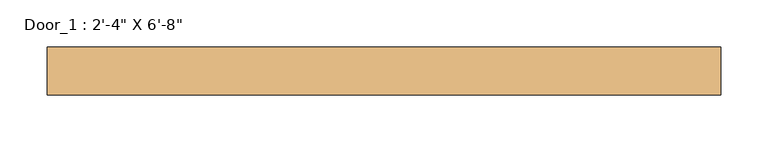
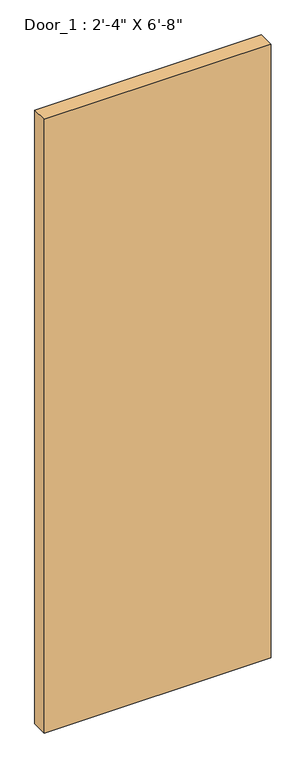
"""IFC4 building model written with IfcOpenShell, lengths in millimetres: door geometry."""

import ifcopenshell
import ifcopenshell.guid

model = None  # the IFC model being written
_history = None  # IfcOwnerHistory: only IFC2X3 demands one
_inside = {}  # id of a spatial element -> (the spatial element, [elements in it])
_under = {}  # id of a project, library or spatial element -> (it, [spatial elements below it])
_declared = {}  # id of a project -> (the project, [libraries it declares])
_typed = {}  # id of a type object -> (the type object, [elements of that type])
_made_of = {}  # id of a material, layer set ... -> (it, [elements and type objects made of it])


def new_model(schema):
    """Start an empty IFC model of exactly this schema.

    Asked for "IFC4X3", IfcOpenShell would pick the latest addendum, in which some entities
    have other attributes; the version numbers below select the first issue.
    IFC2X3 requires an IfcOwnerHistory on every rooted entity: one is made here for all.
    """
    global model, _history
    if schema == "IFC4X3":
        model = ifcopenshell.file(schema_version=(4, 3, 0, 0))
    else:
        model = ifcopenshell.file(schema=schema)
    _inside.clear()
    _under.clear()
    _declared.clear()
    _typed.clear()
    _made_of.clear()
    _history = None
    if model.schema == "IFC2X3":
        org = make("IfcOrganization", Name="unknown")
        user = make(
            "IfcPersonAndOrganization",
            ThePerson=make("IfcPerson", FamilyName="unknown"),
            TheOrganization=org,
        )
        app = make(
            "IfcApplication",
            ApplicationDeveloper=org,
            Version="unknown",
            ApplicationFullName="unknown",
            ApplicationIdentifier="unknown",
        )
        _history = make(
            "IfcOwnerHistory",
            OwningUser=user,
            OwningApplication=app,
            ChangeAction="ADDED",
            CreationDate=0,
        )
    return model


def make(cls, **values):
    """One entity of the class cls with the attributes given. An attribute that is None is left unset."""
    return model.create_entity(
        cls, **{name: value for name, value in values.items() if value is not None}
    )


def rooted(cls, **values):
    """An entity with a GlobalId (a new one), such as an element, a storey or a relation."""
    return make(cls, GlobalId=ifcopenshell.guid.new(), OwnerHistory=_history, **values)


def si_unit(unit_type, name, prefix=None):
    """IfcSIUnit, for example si_unit("LENGTHUNIT", "METRE", prefix="MILLI")."""
    return make("IfcSIUnit", UnitType=unit_type, Prefix=prefix, Name=name)


def assignment(units):
    """IfcUnitAssignment: the units of a project."""
    return None if units is None else make("IfcUnitAssignment", Units=units)


def point(xyz):
    """IfcCartesianPoint."""
    return None if xyz is None else make("IfcCartesianPoint", Coordinates=xyz)


def direction(xyz):
    """IfcDirection."""
    return None if xyz is None else make("IfcDirection", DirectionRatios=xyz)


def frame(location, z_axis=None, x_axis=None):
    """IfcAxis2Placement3D, a coordinate frame: its origin and axes. An axis left out is left unset."""
    return make(
        "IfcAxis2Placement3D",
        Location=point(location),
        Axis=direction(z_axis),
        RefDirection=direction(x_axis),
    )


def origin():
    """The frame at (0, 0, 0) with its axes left unset."""
    return frame((0.0, 0.0, 0.0))


def origin_with_axes():
    """The frame at (0, 0, 0) with the z axis (0, 0, 1) and the x axis (1, 0, 0) written out."""
    return frame((0.0, 0.0, 0.0), z_axis=(0.0, 0.0, 1.0), x_axis=(1.0, 0.0, 0.0))


def place(relative_to, where):
    """IfcLocalPlacement: puts the frame where relative to a parent placement (None: the world)."""
    return make(
        "IfcLocalPlacement", PlacementRelTo=relative_to, RelativePlacement=where
    )


def context(
    kind, dimensions, precision=None, world=None, true_north=None, identifier=None
):
    """IfcGeometricRepresentationContext, for example the 3D "Model" context."""
    return make(
        "IfcGeometricRepresentationContext",
        ContextIdentifier=identifier,
        ContextType=kind,
        CoordinateSpaceDimension=dimensions,
        Precision=precision,
        WorldCoordinateSystem=world,
        TrueNorth=true_north,
    )


def project(units=None, contexts=None):
    """IfcProject with its units and contexts."""
    return rooted(
        "IfcProject",
        Name="project",
        RepresentationContexts=contexts,
        UnitsInContext=assignment(units),
    )


def spatial(cls, under=None, at=None, **own):
    """A site, building, storey or space (cls), placed at a placement, below another one or the project."""
    s = rooted(cls, ObjectPlacement=at, **own)
    if under is not None:
        _under.setdefault(under.id(), (under, []))[1].append(s)
    return s


def polyline(points):
    """IfcPolyline through the points."""
    return make("IfcPolyline", Points=[point(p) for p in points])


def outline(outer, holes=None, kind="AREA"):
    """IfcArbitraryClosedProfileDef: a profile drawn as a closed curve; with holes, ...WithVoids."""
    if holes is None:
        return make("IfcArbitraryClosedProfileDef", ProfileType=kind, OuterCurve=outer)
    return make(
        "IfcArbitraryProfileDefWithVoids",
        ProfileType=kind,
        OuterCurve=outer,
        InnerCurves=holes,
    )


def extrude(swept, where, along, depth):
    """IfcExtrudedAreaSolid: the profile swept, set in the frame where, extruded along a direction by depth."""
    return make(
        "IfcExtrudedAreaSolid",
        SweptArea=swept,
        Position=where,
        ExtrudedDirection=direction(along),
        Depth=depth,
    )


def shape(context_of_items, identifier, shape_type, items):
    """IfcShapeRepresentation: the items that make up one representation, for example the "Body"."""
    return make(
        "IfcShapeRepresentation",
        ContextOfItems=context_of_items,
        RepresentationIdentifier=identifier,
        RepresentationType=shape_type,
        Items=items,
    )


def source(mapping_origin, context_of_items, identifier, shape_type, items):
    """IfcRepresentationMap: a shape defined once, which mapped items show again and again."""
    return make(
        "IfcRepresentationMap",
        MappingOrigin=mapping_origin,
        MappedRepresentation=shape(context_of_items, identifier, shape_type, items),
    )


def transform(
    local_origin,
    x_axis=None,
    y_axis=None,
    z_axis=None,
    scale=None,
    scale2=None,
    scale3=None,
    uniform=True,
):
    """IfcCartesianTransformationOperator3D, or its non-uniform kind. x_axis, y_axis, z_axis: its Axis1, 2, 3."""
    if uniform:
        return make(
            "IfcCartesianTransformationOperator3D",
            Axis1=direction(x_axis),
            Axis2=direction(y_axis),
            LocalOrigin=point(local_origin),
            Scale=scale,
            Axis3=direction(z_axis),
        )
    return make(
        "IfcCartesianTransformationOperator3DnonUniform",
        Axis1=direction(x_axis),
        Axis2=direction(y_axis),
        LocalOrigin=point(local_origin),
        Scale=scale,
        Axis3=direction(z_axis),
        Scale2=scale2,
        Scale3=scale3,
    )


def mapped(mapping_source, mapping_target):
    """IfcMappedItem: shows the shape of a source again, moved by a transform."""
    return make(
        "IfcMappedItem", MappingSource=mapping_source, MappingTarget=mapping_target
    )


def made_of(thing, what):
    """Note that an element or type object is made of a material, layer set ...; save() writes the relation."""
    if what is not None:
        _made_of.setdefault(what.id(), (what, []))[1].append(thing)
    return thing


def element(
    cls,
    number,
    at=None,
    inside=None,
    cuts=None,
    type_object=None,
    material=None,
    context=None,
    identifier="Body",
    shape_type=None,
    held_by="IfcProductDefinitionShape",
    body=None,
    shapes=None,
    **own,
):
    """One element of the class cls, such as IfcWall. Its Tag is "e" and its number.

    at: its placement. inside: the storey or other place that contains it. cuts: it is an
    opening in that element (IfcRelVoidsElement). A single representation is given by context,
    identifier, shape_type and body (its items); several are given by shapes. held_by: the class
    of the entity that holds the representations. save() writes the other relations.
    """
    e = rooted(cls, Tag="e%d" % number, ObjectPlacement=at, **own)
    if body is not None:
        shapes = [shape(context, identifier, shape_type, body)]
    if shapes is not None:
        e.Representation = make(held_by, Representations=shapes)
    if inside is not None:
        _inside.setdefault(inside.id(), (inside, []))[1].append(e)
    if cuts is not None:
        rooted(
            "IfcRelVoidsElement", RelatingBuildingElement=cuts, RelatedOpeningElement=e
        )
    if type_object is not None:
        _typed.setdefault(type_object.id(), (type_object, []))[1].append(e)
    return made_of(e, material)


def aggregate(whole, parts):
    """IfcRelAggregates: a whole, such as a stair, and the parts it consists of."""
    return rooted("IfcRelAggregates", RelatingObject=whole, RelatedObjects=parts)


def save(model, path):
    """Write the relations noted so far, then the file.

    IfcRelAggregates (storeys below a building ...), IfcRelContainedInSpatialStructure (elements
    in a storey), IfcRelDefinesByType, IfcRelAssociatesMaterial and IfcRelDeclares: one each for
    every whole, place, type object, material and project.
    """
    for whole, parts in _under.values():
        aggregate(whole, parts)
    for where, things in _inside.values():
        rooted(
            "IfcRelContainedInSpatialStructure",
            RelatedElements=things,
            RelatingStructure=where,
        )
    for kind, things in _typed.values():
        rooted("IfcRelDefinesByType", RelatedObjects=things, RelatingType=kind)
    for what, things in _made_of.values():
        rooted("IfcRelAssociatesMaterial", RelatedObjects=things, RelatingMaterial=what)
    for by, libraries in _declared.values():
        rooted("IfcRelDeclares", RelatingContext=by, RelatedDefinitions=libraries)
    model.write(path)


def door_f3367864(model_context):
    return source(origin(), model_context, "Body", "SweptSolid", [
        extrude(outline(polyline([(355.6, -52.5893842), (355.6, -103.3893842), (-355.6, -103.3893842), (-355.6, -52.5893842), (355.6, -52.5893842)])), origin_with_axes(), (0.0, 0.0, 1.0), 2032.0),
    ])


if __name__ == "__main__":
    model = new_model("IFC4")
    model_context = context("Model", 3, world=origin())
    ifc_project = project(units=[si_unit("LENGTHUNIT", "METRE", prefix="MILLI")], contexts=[model_context])
    site = spatial("IfcSite", under=ifc_project)
    building = spatial("IfcBuilding", under=site)
    placement = place(None, origin())
    door_shape = door_f3367864(model_context)
    element("IfcDoor", 1, ObjectType="Door_1 : 2'-4\" X 6'-8\"", at=placement, inside=building, context=model_context, shape_type="MappedRepresentation", body=[
        mapped(door_shape, transform((0.0, 0.0, 0.0), x_axis=(1.0, 0.0, 0.0), y_axis=(0.0, 1.0, 0.0), z_axis=(0.0, 0.0, 1.0))),
    ])
    save(model, "model.ifc")
